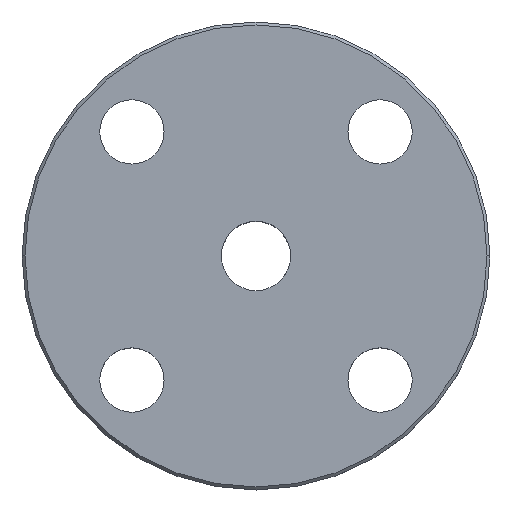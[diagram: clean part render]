
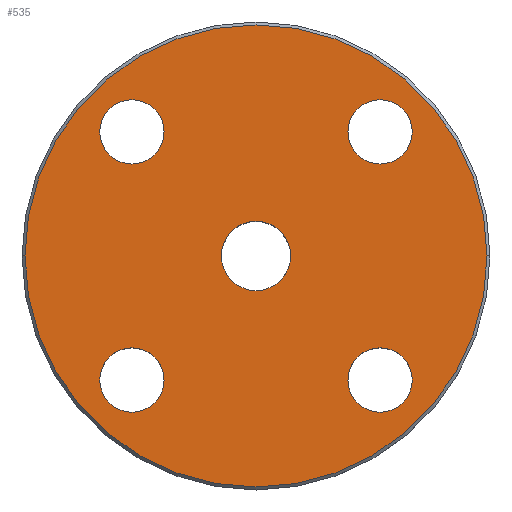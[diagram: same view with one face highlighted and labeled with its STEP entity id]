
A CAD part, top view. The second image highlights one B-rep face of the part: STEP entity #535.
In plain terms, the highlighted planar face has unit normal (0, 0, 1).
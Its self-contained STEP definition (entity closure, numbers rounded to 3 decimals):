
#9 = FACE_OUTER_BOUND ( 'NONE', #528, .T. ) ;
#11 = DIRECTION ( 'NONE',  ( 0., 0., -1. ) ) ;
#17 = CIRCLE ( 'NONE', #636, 5.5 ) ;
#18 = CIRCLE ( 'NONE', #166, 5.5 ) ;
#31 = CIRCLE ( 'NONE', #649, 5.5 ) ;
#43 = ORIENTED_EDGE ( 'NONE', *, *, #326, .T. ) ;
#51 = DIRECTION ( 'NONE',  ( 0., 0., -1. ) ) ;
#57 = EDGE_CURVE ( 'NONE', #981, #749, #184, .T. ) ;
#64 = CARTESIAN_POINT ( 'NONE',  ( 5.918, 0., 189. ) ) ;
#75 = ORIENTED_EDGE ( 'NONE', *, *, #974, .T. ) ;
#89 = CIRCLE ( 'NONE', #231, 5.5 ) ;
#90 = CIRCLE ( 'NONE', #334, 5.5 ) ;
#100 = CARTESIAN_POINT ( 'NONE',  ( -26.713, 21.213, 189. ) ) ;
#103 = DIRECTION ( 'NONE',  ( 0., 0., -1. ) ) ;
#116 = AXIS2_PLACEMENT_3D ( 'NONE', #523, #920, #839 ) ;
#130 = CIRCLE ( 'NONE', #309, 5.918 ) ;
#151 = CARTESIAN_POINT ( 'NONE',  ( -21.213, 21.213, 189. ) ) ;
#156 = DIRECTION ( 'NONE',  ( 0., -1., 0. ) ) ;
#163 = ORIENTED_EDGE ( 'NONE', *, *, #57, .F. ) ;
#166 = AXIS2_PLACEMENT_3D ( 'NONE', #871, #283, #877 ) ;
#168 = AXIS2_PLACEMENT_3D ( 'NONE', #416, #51, #721 ) ;
#175 = EDGE_CURVE ( 'NONE', #265, #237, #17, .T. ) ;
#182 = ORIENTED_EDGE ( 'NONE', *, *, #511, .T. ) ;
#184 = CIRCLE ( 'NONE', #777, 39.5 ) ;
#213 = AXIS2_PLACEMENT_3D ( 'NONE', #469, #103, #870 ) ;
#224 = ORIENTED_EDGE ( 'NONE', *, *, #783, .T. ) ;
#231 = AXIS2_PLACEMENT_3D ( 'NONE', #680, #376, #304 ) ;
#237 = VERTEX_POINT ( 'NONE', #100 ) ;
#241 = CARTESIAN_POINT ( 'NONE',  ( 0., 0., 189. ) ) ;
#242 = EDGE_CURVE ( 'NONE', #749, #981, #825, .T. ) ;
#244 = PLANE ( 'NONE',  #116 ) ;
#262 = CIRCLE ( 'NONE', #168, 5.918 ) ;
#265 = VERTEX_POINT ( 'NONE', #619 ) ;
#283 = DIRECTION ( 'NONE',  ( 0., 0., -1. ) ) ;
#294 = CARTESIAN_POINT ( 'NONE',  ( 26.713, -21.213, 189. ) ) ;
#304 = DIRECTION ( 'NONE',  ( 0., -1., 0. ) ) ;
#309 = AXIS2_PLACEMENT_3D ( 'NONE', #517, #745, #320 ) ;
#320 = DIRECTION ( 'NONE',  ( -1., 0., 0. ) ) ;
#326 = EDGE_CURVE ( 'NONE', #910, #527, #965, .T. ) ;
#328 = VERTEX_POINT ( 'NONE', #784 ) ;
#334 = AXIS2_PLACEMENT_3D ( 'NONE', #830, #587, #156 ) ;
#343 = FACE_BOUND ( 'NONE', #750, .T. ) ;
#350 = DIRECTION ( 'NONE',  ( -1., 0., 0. ) ) ;
#355 = CARTESIAN_POINT ( 'NONE',  ( 0., 0., 189. ) ) ;
#362 = ORIENTED_EDGE ( 'NONE', *, *, #449, .T. ) ;
#365 = CARTESIAN_POINT ( 'NONE',  ( 21.213, 15.713, 189. ) ) ;
#375 = CARTESIAN_POINT ( 'NONE',  ( 21.213, 26.713, 189. ) ) ;
#376 = DIRECTION ( 'NONE',  ( 0., 0., -1. ) ) ;
#388 = FACE_BOUND ( 'NONE', #664, .T. ) ;
#396 = AXIS2_PLACEMENT_3D ( 'NONE', #241, #827, #609 ) ;
#400 = DIRECTION ( 'NONE',  ( 0., 0., -1. ) ) ;
#416 = CARTESIAN_POINT ( 'NONE',  ( 0., 0., 189. ) ) ;
#417 = CARTESIAN_POINT ( 'NONE',  ( 21.213, 21.213, 189. ) ) ;
#422 = AXIS2_PLACEMENT_3D ( 'NONE', #151, #529, #819 ) ;
#439 = DIRECTION ( 'NONE',  ( 0., 1., 0. ) ) ;
#440 = CIRCLE ( 'NONE', #213, 5.5 ) ;
#449 = EDGE_CURVE ( 'NONE', #833, #766, #18, .T. ) ;
#462 = VERTEX_POINT ( 'NONE', #955 ) ;
#467 = VERTEX_POINT ( 'NONE', #583 ) ;
#469 = CARTESIAN_POINT ( 'NONE',  ( 21.213, -21.213, 189. ) ) ;
#479 = AXIS2_PLACEMENT_3D ( 'NONE', #934, #400, #481 ) ;
#481 = DIRECTION ( 'NONE',  ( 0., 1., 0. ) ) ;
#500 = DIRECTION ( 'NONE',  ( 0., 0., -1. ) ) ;
#510 = VERTEX_POINT ( 'NONE', #64 ) ;
#511 = EDGE_CURVE ( 'NONE', #527, #910, #31, .T. ) ;
#517 = CARTESIAN_POINT ( 'NONE',  ( 0., 0., 189. ) ) ;
#523 = CARTESIAN_POINT ( 'NONE',  ( 0., 0., 189. ) ) ;
#527 = VERTEX_POINT ( 'NONE', #365 ) ;
#528 = EDGE_LOOP ( 'NONE', ( #163, #743 ) ) ;
#529 = DIRECTION ( 'NONE',  ( 0., 0., -1. ) ) ;
#534 = ORIENTED_EDGE ( 'NONE', *, *, #882, .T. ) ;
#535 = ADVANCED_FACE ( 'NONE', ( #343, #537, #689, #388, #983, #9 ), #244, .T. ) ;
#537 = FACE_BOUND ( 'NONE', #865, .T. ) ;
#541 = EDGE_CURVE ( 'NONE', #328, #467, #89, .T. ) ;
#554 = ORIENTED_EDGE ( 'NONE', *, *, #541, .T. ) ;
#583 = CARTESIAN_POINT ( 'NONE',  ( -21.213, -26.713, 189. ) ) ;
#585 = ORIENTED_EDGE ( 'NONE', *, *, #936, .T. ) ;
#587 = DIRECTION ( 'NONE',  ( 0., 0., -1. ) ) ;
#609 = DIRECTION ( 'NONE',  ( -1., 0., 0. ) ) ;
#619 = CARTESIAN_POINT ( 'NONE',  ( -15.713, 21.213, 189. ) ) ;
#624 = DIRECTION ( 'NONE',  ( -1., 0., 0. ) ) ;
#636 = AXIS2_PLACEMENT_3D ( 'NONE', #832, #11, #624 ) ;
#649 = AXIS2_PLACEMENT_3D ( 'NONE', #417, #500, #439 ) ;
#663 = DIRECTION ( 'NONE',  ( 0., 0., -1. ) ) ;
#664 = EDGE_LOOP ( 'NONE', ( #534, #931 ) ) ;
#680 = CARTESIAN_POINT ( 'NONE',  ( -21.213, -21.213, 189. ) ) ;
#689 = FACE_BOUND ( 'NONE', #693, .T. ) ;
#693 = EDGE_LOOP ( 'NONE', ( #43, #182 ) ) ;
#713 = EDGE_CURVE ( 'NONE', #510, #462, #262, .T. ) ;
#721 = DIRECTION ( 'NONE',  ( -1., 0., 0. ) ) ;
#743 = ORIENTED_EDGE ( 'NONE', *, *, #242, .F. ) ;
#745 = DIRECTION ( 'NONE',  ( 0., 0., -1. ) ) ;
#749 = VERTEX_POINT ( 'NONE', #949 ) ;
#750 = EDGE_LOOP ( 'NONE', ( #362, #224 ) ) ;
#766 = VERTEX_POINT ( 'NONE', #851 ) ;
#777 = AXIS2_PLACEMENT_3D ( 'NONE', #355, #663, #350 ) ;
#783 = EDGE_CURVE ( 'NONE', #766, #833, #440, .T. ) ;
#784 = CARTESIAN_POINT ( 'NONE',  ( -21.213, -15.713, 189. ) ) ;
#819 = DIRECTION ( 'NONE',  ( -1., 0., 0. ) ) ;
#825 = CIRCLE ( 'NONE', #396, 39.5 ) ;
#827 = DIRECTION ( 'NONE',  ( 0., 0., -1. ) ) ;
#830 = CARTESIAN_POINT ( 'NONE',  ( -21.213, -21.213, 189. ) ) ;
#832 = CARTESIAN_POINT ( 'NONE',  ( -21.213, 21.213, 189. ) ) ;
#833 = VERTEX_POINT ( 'NONE', #294 ) ;
#839 = DIRECTION ( 'NONE',  ( 0., 1., 0. ) ) ;
#851 = CARTESIAN_POINT ( 'NONE',  ( 15.713, -21.213, 189. ) ) ;
#865 = EDGE_LOOP ( 'NONE', ( #585, #554 ) ) ;
#870 = DIRECTION ( 'NONE',  ( 1., 0., 0. ) ) ;
#871 = CARTESIAN_POINT ( 'NONE',  ( 21.213, -21.213, 189. ) ) ;
#877 = DIRECTION ( 'NONE',  ( 1., 0., 0. ) ) ;
#882 = EDGE_CURVE ( 'NONE', #237, #265, #948, .T. ) ;
#898 = EDGE_LOOP ( 'NONE', ( #75, #924 ) ) ;
#910 = VERTEX_POINT ( 'NONE', #375 ) ;
#920 = DIRECTION ( 'NONE',  ( 0., 0., 1. ) ) ;
#924 = ORIENTED_EDGE ( 'NONE', *, *, #713, .T. ) ;
#925 = CARTESIAN_POINT ( 'NONE',  ( -39.5, 0., 189. ) ) ;
#931 = ORIENTED_EDGE ( 'NONE', *, *, #175, .T. ) ;
#934 = CARTESIAN_POINT ( 'NONE',  ( 21.213, 21.213, 189. ) ) ;
#936 = EDGE_CURVE ( 'NONE', #467, #328, #90, .T. ) ;
#948 = CIRCLE ( 'NONE', #422, 5.5 ) ;
#949 = CARTESIAN_POINT ( 'NONE',  ( 39.5, 0., 189. ) ) ;
#955 = CARTESIAN_POINT ( 'NONE',  ( -5.918, 0., 189. ) ) ;
#965 = CIRCLE ( 'NONE', #479, 5.5 ) ;
#974 = EDGE_CURVE ( 'NONE', #462, #510, #130, .T. ) ;
#981 = VERTEX_POINT ( 'NONE', #925 ) ;
#983 = FACE_BOUND ( 'NONE', #898, .T. ) ;
